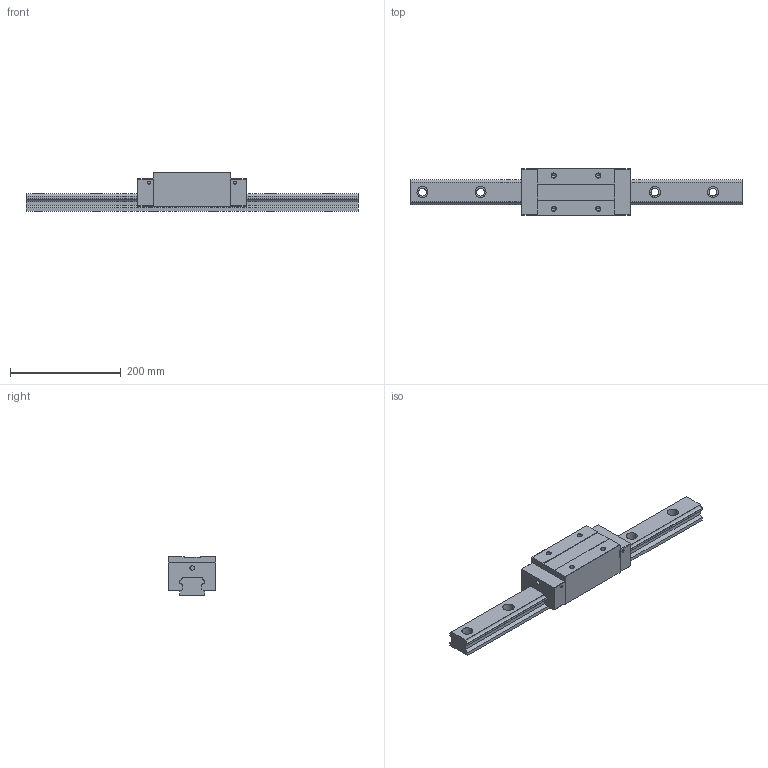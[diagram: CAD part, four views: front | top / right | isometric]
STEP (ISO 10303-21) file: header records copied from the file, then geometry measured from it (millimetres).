
FILE_DESCRIPTION (( 'STEP AP203' ), '1' );
FILE_NAME ('TRH45VE-WZ.STEP', '2024-05-17T02:40:10', ( '' ), ( '' ), 'SwSTEP 2.0', 'SolidWorks 2022', '' );
FILE_SCHEMA (( 'CONFIG_CONTROL_DESIGN' ));
Length unit declared in the file: millimetre
Products named in the file (1): TRH45VE-WZ
Bounding box: 600 x 85.5 x 70 mm (x, y, z)
Volume: 1494177.1 mm3; surface area: 184232.2 mm2
Topology: 2 solids, 2 shells, 180 faces, 472 edges, 304 vertices
Faces by surface type: plane 84, cylinder 80, cone 16
Entity records: 5607 total; most frequent: DIRECTION 994, CARTESIAN_POINT 949, ORIENTED_EDGE 928, EDGE_CURVE 464, AXIS2_PLACEMENT_3D 349, VERTEX_POINT 304, VECTOR 296, LINE 296
